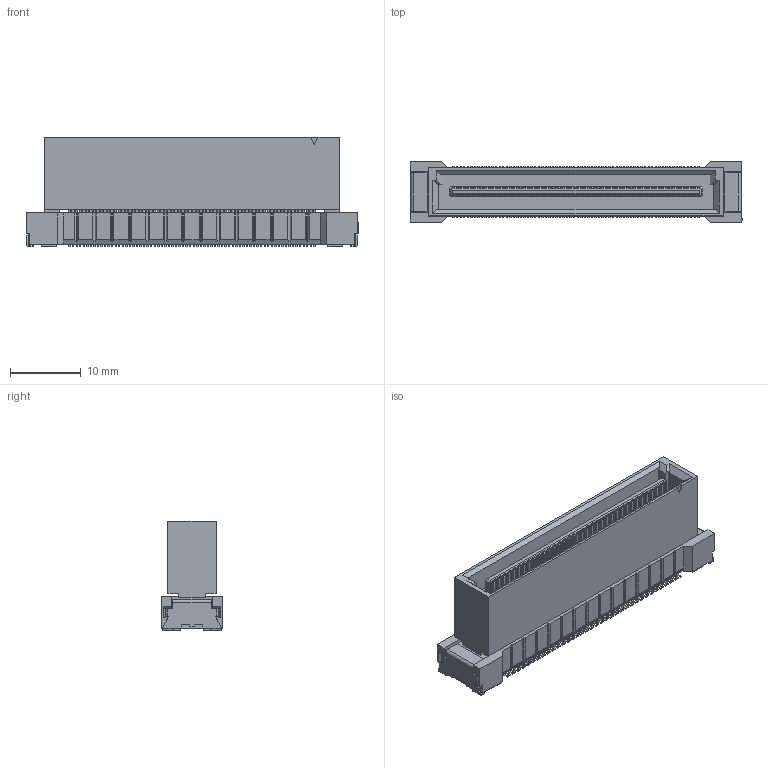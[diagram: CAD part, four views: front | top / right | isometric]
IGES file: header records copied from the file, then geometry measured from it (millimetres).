
Start section: Elysium IGES Interface
Global section: file name: 146HG:\その他\DT関連\【59期以前】\DT_CADﾃﾞｰﾀ\DT_3DCAD\DT0□\FS-10\60-36-0113_WEBサイトアップロード用\ボス無し_DT00-XXXFS-10\P3E104_DT00-140FS-10-T.igs; native system: Creo Elements/Direct Modeling 20.4A  18-Oct-2021; preprocessor: Creo Element/Direct IGES_3D V2.2; author: Unknown; organization: Unknown; date: 20220225.173500; units: millimetre
Bounding box: 46.8 x 8.5 x 15.5 mm (x, y, z)
Volume: 3750.2 mm3; surface area: 3657.8 mm2
Topology: 1 solids, 1 shells, 3865 faces, 10853 edges, 7130 vertices
Faces by surface type: bspline 3865
